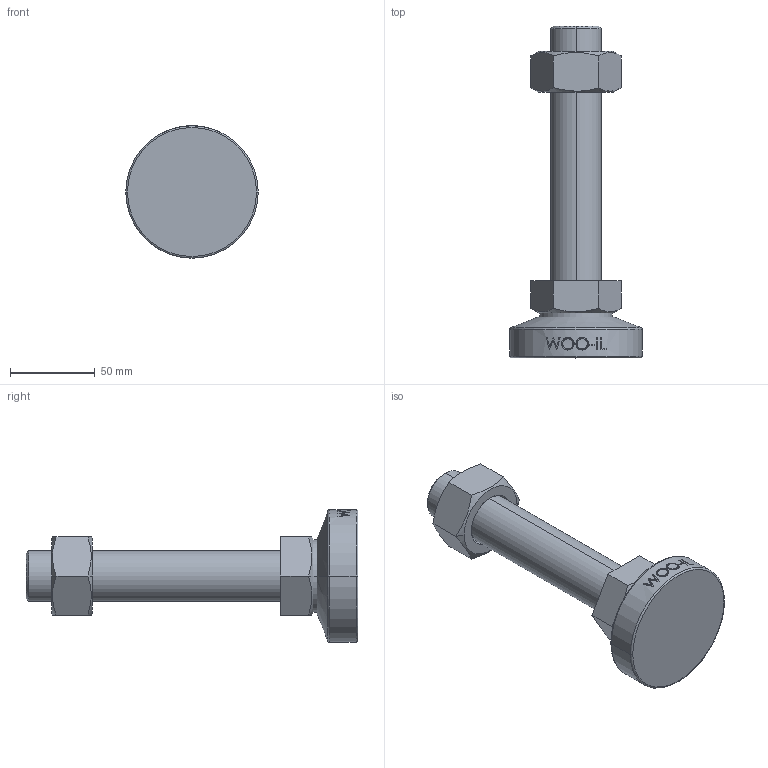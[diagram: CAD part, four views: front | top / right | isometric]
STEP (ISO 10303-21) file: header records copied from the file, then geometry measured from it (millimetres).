
FILE_DESCRIPTION (( 'STEP AP214' ), '1' );
FILE_NAME ('MFB78-M30-150.step', '2022-06-27T08:36:08', ( '' ), ( '' ), 'SwSTEP 2.0', 'SolidWorks 2019', '' );
FILE_SCHEMA (( 'AUTOMOTIVE_DESIGN' ));
Length unit declared in the file: millimetre
Products named in the file (1): MFB78-M30-150
Bounding box: 78 x 195.5 x 78 mm (x, y, z)
Volume: 273898.3 mm3; surface area: 42827.9 mm2
Topology: 3 solids, 3 shells, 97 faces, 225 edges, 144 vertices
Faces by surface type: plane 47, cylinder 16, bspline 16, cone 14, torus 4
Entity records: 4305 total; most frequent: CARTESIAN_POINT 2175, ORIENTED_EDGE 450, DIRECTION 385, EDGE_CURVE 225, VERTEX_POINT 144, AXIS2_PLACEMENT_3D 144, EDGE_LOOP 109, ADVANCED_FACE 97
